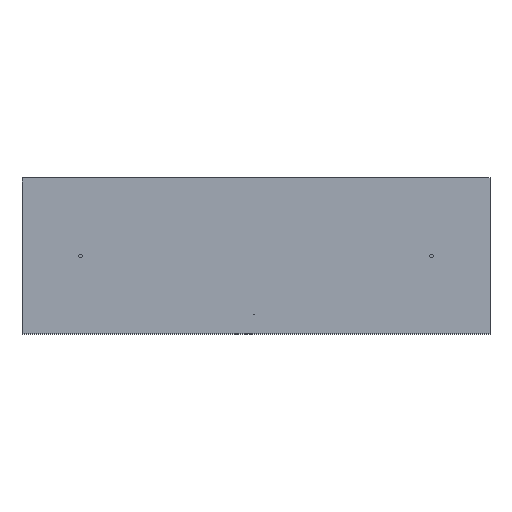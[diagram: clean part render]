
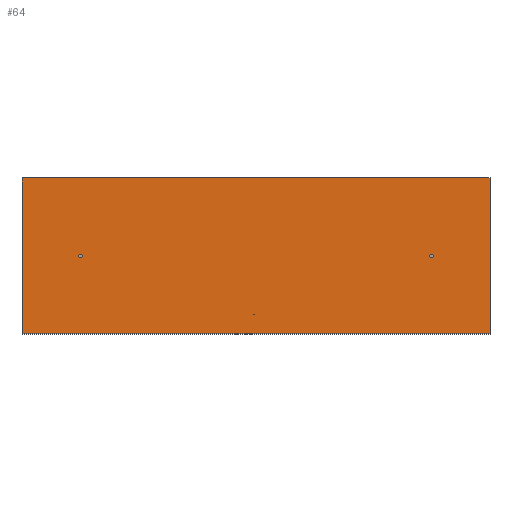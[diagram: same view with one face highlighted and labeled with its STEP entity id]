
A CAD part, top view. The second image highlights one B-rep face of the part: STEP entity #64.
In plain terms, the highlighted planar face has unit normal (0, 0, 1).
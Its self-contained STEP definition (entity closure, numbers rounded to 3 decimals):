
#43=FACE_BOUND('',#93,.T.);
#44=FACE_BOUND('',#94,.T.);
#45=FACE_BOUND('',#95,.T.);
#46=FACE_BOUND('',#96,.T.);
#53=CIRCLE('',#219,2.5);
#54=CIRCLE('',#220,0.25);
#55=CIRCLE('',#221,2.5);
#64=ADVANCED_FACE('',(#43,#44,#45,#46),#76,.F.);
#76=PLANE('',#222);
#93=EDGE_LOOP('',(#126));
#94=EDGE_LOOP('',(#127));
#95=EDGE_LOOP('',(#128));
#96=EDGE_LOOP('',(#129,#130,#131,#132));
#126=ORIENTED_EDGE('',*,*,#168,.F.);
#127=ORIENTED_EDGE('',*,*,#169,.F.);
#128=ORIENTED_EDGE('',*,*,#170,.F.);
#129=ORIENTED_EDGE('',*,*,#156,.F.);
#130=ORIENTED_EDGE('',*,*,#166,.F.);
#131=ORIENTED_EDGE('',*,*,#163,.F.);
#132=ORIENTED_EDGE('',*,*,#160,.F.);
#142=VERTEX_POINT('',#290);
#143=VERTEX_POINT('',#291);
#146=VERTEX_POINT('',#299);
#148=VERTEX_POINT('',#305);
#150=VERTEX_POINT('',#315);
#151=VERTEX_POINT('',#317);
#152=VERTEX_POINT('',#319);
#156=EDGE_CURVE('',#142,#143,#174,.T.);
#160=EDGE_CURVE('',#143,#146,#178,.T.);
#163=EDGE_CURVE('',#146,#148,#181,.T.);
#166=EDGE_CURVE('',#148,#142,#184,.T.);
#168=EDGE_CURVE('',#150,#150,#53,.T.);
#169=EDGE_CURVE('',#151,#151,#54,.T.);
#170=EDGE_CURVE('',#152,#152,#55,.T.);
#174=LINE('',#289,#186);
#178=LINE('',#298,#190);
#181=LINE('',#304,#193);
#184=LINE('',#310,#196);
#186=VECTOR('',#238,1.);
#190=VECTOR('',#244,1.);
#193=VECTOR('',#249,1.);
#196=VECTOR('',#254,1.);
#219=AXIS2_PLACEMENT_3D('',#314,#260,#261);
#220=AXIS2_PLACEMENT_3D('',#316,#262,#263);
#221=AXIS2_PLACEMENT_3D('',#318,#264,#265);
#222=AXIS2_PLACEMENT_3D('',#320,#266,#267);
#238=DIRECTION('',(1.,0.,0.));
#244=DIRECTION('',(0.,-1.,0.));
#249=DIRECTION('',(-1.,0.,0.));
#254=DIRECTION('',(0.,1.,0.));
#260=DIRECTION('',(0.,0.,1.));
#261=DIRECTION('',(1.,0.,0.));
#262=DIRECTION('',(0.,0.,1.));
#263=DIRECTION('',(0.,1.,0.));
#264=DIRECTION('',(0.,0.,1.));
#265=DIRECTION('',(1.,0.,0.));
#266=DIRECTION('',(0.,0.,-1.));
#267=DIRECTION('',(-1.,0.,0.));
#289=CARTESIAN_POINT('',(-300.,100.,0.));
#290=CARTESIAN_POINT('',(-300.,100.,0.));
#291=CARTESIAN_POINT('',(300.,100.,0.));
#298=CARTESIAN_POINT('',(300.,100.,0.));
#299=CARTESIAN_POINT('',(300.,-100.,0.));
#304=CARTESIAN_POINT('',(300.,-100.,0.));
#305=CARTESIAN_POINT('',(-300.,-100.,0.));
#310=CARTESIAN_POINT('',(-300.,-100.,0.));
#314=CARTESIAN_POINT('',(225.,0.,0.));
#315=CARTESIAN_POINT('',(227.5,0.,0.));
#316=CARTESIAN_POINT('',(-2.5,-75.,0.));
#317=CARTESIAN_POINT('',(-2.5,-74.75,0.));
#318=CARTESIAN_POINT('',(-225.,0.,0.));
#319=CARTESIAN_POINT('',(-222.5,0.,0.));
#320=CARTESIAN_POINT('',(0.,0.,0.));
